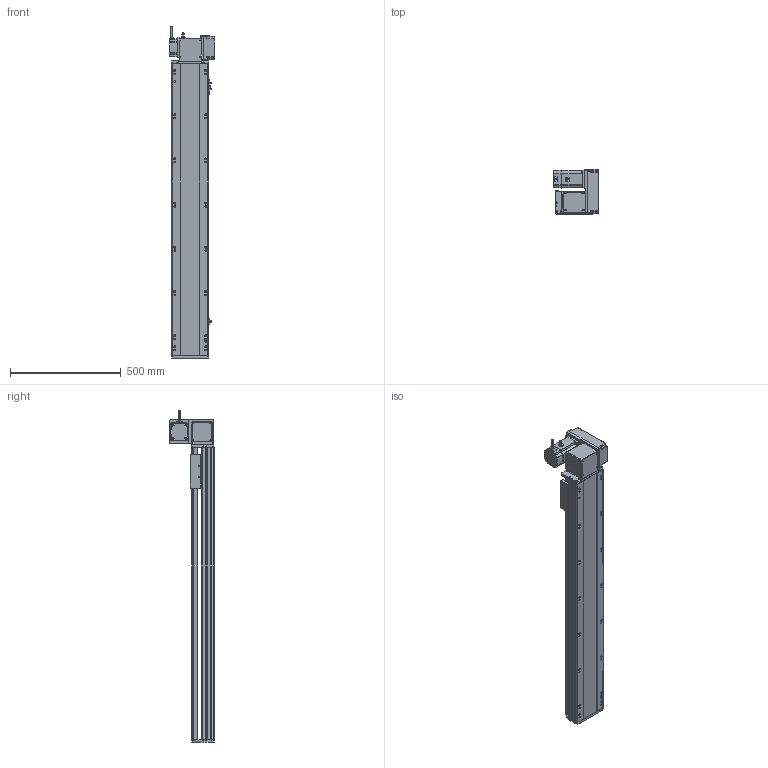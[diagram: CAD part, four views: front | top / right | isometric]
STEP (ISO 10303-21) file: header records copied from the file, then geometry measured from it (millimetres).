
FILE_DESCRIPTION (( 'STEP AP214' ), '1' );
FILE_NAME ('RTB17S-XX-1050-RW-M75-C4.STEP', '2025-12-12T02:36:27', ( '' ), ( '' ), 'SwSTEP 2.0', 'SolidWorks 2018', '' );
FILE_SCHEMA (( 'AUTOMOTIVE_DESIGN' ));
Length unit declared in the file: millimetre
Products named in the file (15): RTH13-BL-012覜茼え俋离^RTB17S-賑釱_RTB17S-XX-XX-RW-M75-C4; RTB17S-L-004-賑釱^RTB17S-賑釱_RTB17S-XX-XX-RW-M75-C4; EE672^RTB17S-XX-XX-RW-M75-C4; RTB17S-RW-々湍釱蚾饜-750W^RTB17S-XX-XX-RW-M75-C4; RTB17S-XX-1050-RW-M75-C4; RTB17-R-011菁釱^RTB17S-XX-XX-RW-M75-C4; RTB22S-GY-017P^RTB17S-RW-々湍釱蚾饜-750W_RTB17S-XX-XX-RW-M75-C4; RTB22S-GY-008-M75--萇儂啣^RTB17S-RW-々湍釱蚾饜-750W_RTB17S-XX-XX-RW-M75-C4; RTB22S-GY-018P^RTB17S-RW-々湍釱蚾饜-750W_RTB17S-XX-XX-RW-M75-C4; 750W萇儂^RTB17S-XX-XX-RW-M75-C4; RTB22S-GY-005P^RTB17S-RW-々湍釱蚾饜-750W_RTB17S-XX-XX-RW-M75-C4; RTB17S-L-007奻裔^RTB17S-XX-XX-RW-M75-C4; RTB17S-L-001-耜醱啣^RTB17S-XX-XX-RW-M75-C4; RTB17S-賑釱^RTB17S-XX-XX-RW-M75-C4; RMP17S-L-014-T20-P75--々湍釱^RTB17S-RW-々湍釱蚾饜-750W_RTB17S-XX-XX-RW-M75-C4
Assembly tree (17 placements, depth 3):
  RTB17S-XX-1050-RW-M75-C4
    RTB17-R-011菁釱^RTB17S-XX-XX-RW-M75-C4
    EE672^RTB17S-XX-XX-RW-M75-C4  x3
    RTB17S-L-001-耜醱啣^RTB17S-XX-XX-RW-M75-C4
    RTB17S-賑釱^RTB17S-XX-XX-RW-M75-C4
      RTB17S-L-004-賑釱^RTB17S-賑釱_RTB17S-XX-XX-RW-M75-C4
      RTH13-BL-012覜茼え俋离^RTB17S-賑釱_RTB17S-XX-XX-RW-M75-C4
    RTB17S-L-007奻裔^RTB17S-XX-XX-RW-M75-C4
    750W萇儂^RTB17S-XX-XX-RW-M75-C4
    RTB17S-RW-々湍釱蚾饜-750W^RTB17S-XX-XX-RW-M75-C4
      RMP17S-L-014-T20-P75--々湍釱^RTB17S-RW-々湍釱蚾饜-750W_RTB17S-XX-XX-RW-M75-C4
      RTB22S-GY-005P^RTB17S-RW-々湍釱蚾饜-750W_RTB17S-XX-XX-RW-M75-C4
      RTB22S-GY-017P^RTB17S-RW-々湍釱蚾饜-750W_RTB17S-XX-XX-RW-M75-C4  x2
      RTB22S-GY-008-M75--萇儂啣^RTB17S-RW-々湍釱蚾饜-750W_RTB17S-XX-XX-RW-M75-C4
      RTB22S-GY-018P^RTB17S-RW-々湍釱蚾饜-750W_RTB17S-XX-XX-RW-M75-C4
Bounding box: 207.4 x 201.5 x 1502.2 mm (x, y, z)
Volume: 12508454.8 mm3; surface area: 2134134.2 mm2
Topology: 17 solids, 17 shells, 2105 faces, 5836 edges, 3770 vertices
Faces by surface type: plane 972, cylinder 717, bspline 294, cone 110, sphere 8, torus 4
Entity records: 58870 total; most frequent: CARTESIAN_POINT 17300, ORIENTED_EDGE 8516, DIRECTION 7952, EDGE_CURVE 4258, AXIS2_PLACEMENT_3D 2790, VERTEX_POINT 2774, VECTOR 2372, LINE 2372
